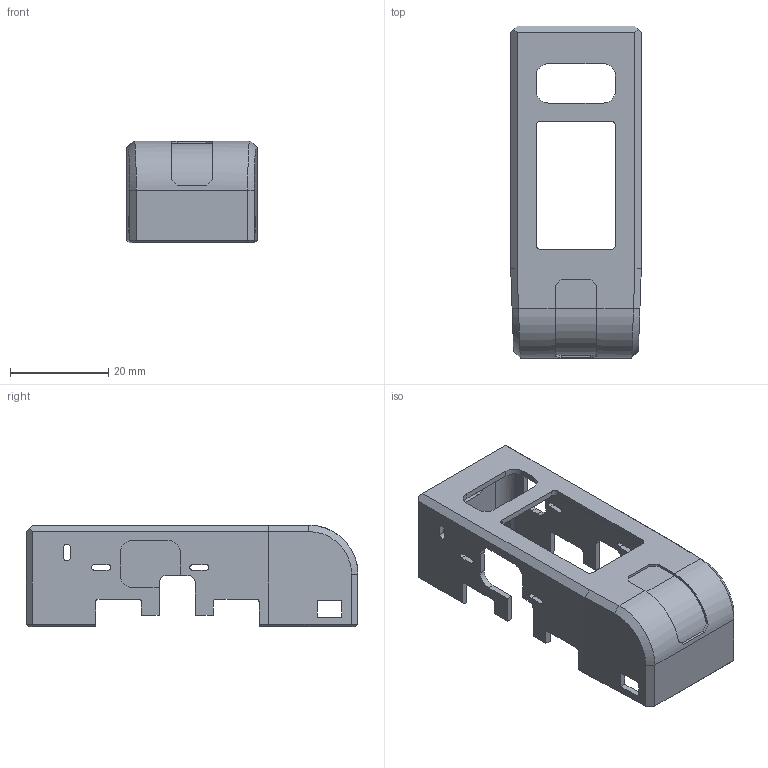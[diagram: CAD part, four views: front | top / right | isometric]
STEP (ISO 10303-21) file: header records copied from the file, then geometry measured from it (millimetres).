
FILE_DESCRIPTION(('Open CASCADE Model'),'2;1');
FILE_NAME('Open CASCADE Shape Model','2026-10-12T14:22:03',('Author'),( 'Open CASCADE'),'Open CASCADE STEP processor 7.9','Open CASCADE 7.9' ,'Unknown');
FILE_SCHEMA(('AUTOMOTIVE_DESIGN { 1 0 10303 214 1 1 1 1 }'));
Length unit declared in the file: millimetre
Products named in the file (1): Open CASCADE STEP translator 7.9 1
Bounding box: 26.6 x 67.6 x 20.7 mm (x, y, z)
Volume: 4666.3 mm3; surface area: 8361.7 mm2
Topology: 1 solids, 1 shells, 199 faces, 575 edges, 378 vertices
Faces by surface type: plane 125, cylinder 58, bspline 16
Entity records: 14572 total; most frequent: CARTESIAN_POINT 3517, DIRECTION 1941, LINE 1247, VECTOR 1247, ORIENTED_EDGE 1150, PCURVE 1150, DEFINITIONAL_REPRESENTATION 1150, EDGE_CURVE 575
